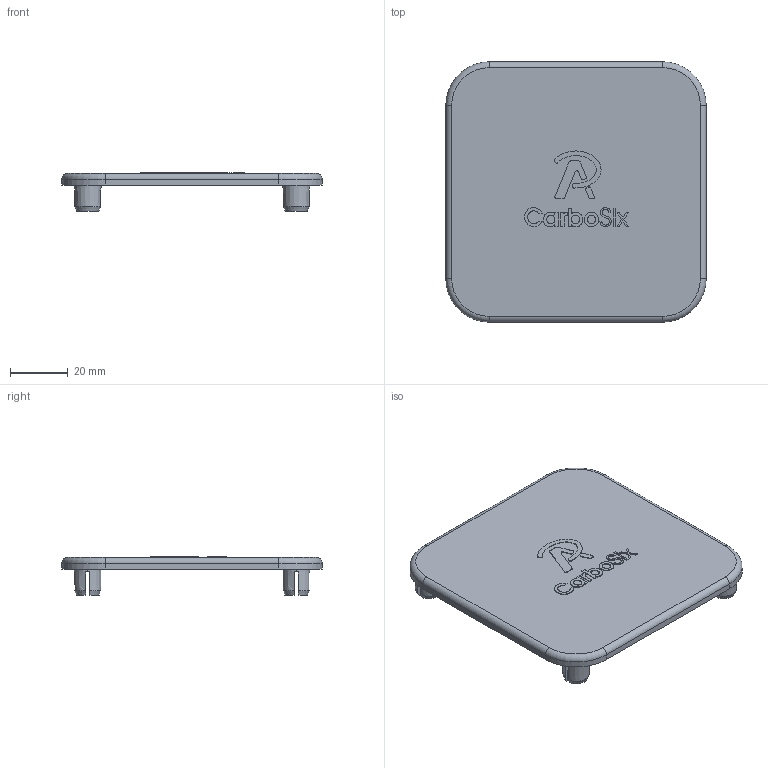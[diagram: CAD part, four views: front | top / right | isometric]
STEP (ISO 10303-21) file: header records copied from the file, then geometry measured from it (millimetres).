
FILE_DESCRIPTION (( 'STEP AP203' ), '1' );
FILE_NAME ('115.201.003.STEP', '2022-05-23T15:12:34', ( '' ), ( '' ), 'SwSTEP 2.0', 'SolidWorks 2021', '' );
FILE_SCHEMA (( 'CONFIG_CONTROL_DESIGN' ));
Length unit declared in the file: millimetre
Products named in the file (1): 115.201.003
Bounding box: 90 x 90 x 13.2 mm (x, y, z)
Volume: 25555.1 mm3; surface area: 19050 mm2
Topology: 1 solids, 1 shells, 388 faces, 1069 edges, 710 vertices
Faces by surface type: plane 283, bspline 42, cone 36, cylinder 23, torus 4
Entity records: 12908 total; most frequent: CARTESIAN_POINT 3182, ORIENTED_EDGE 2138, DIRECTION 1777, EDGE_CURVE 1069, LINE 775, VECTOR 775, VERTEX_POINT 710, AXIS2_PLACEMENT_3D 501
